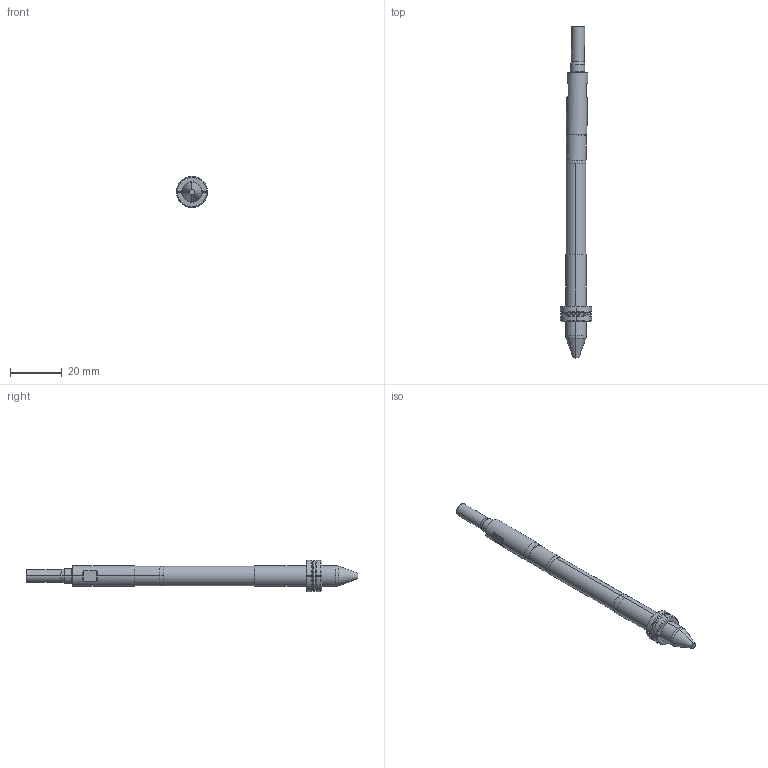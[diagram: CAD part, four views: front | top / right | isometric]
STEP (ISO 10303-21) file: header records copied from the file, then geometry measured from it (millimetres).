
FILE_DESCRIPTION (( 'STEP AP214' ), '1' );
FILE_NAME ('WP080030-INJ 1°.STEP', '2021-03-19T15:19:10', ( '' ), ( '' ), 'SwSTEP 2.0', 'SolidWorks 2019', '' );
FILE_SCHEMA (( 'AUTOMOTIVE_DESIGN' ));
Length unit declared in the file: millimetre
Products named in the file (6): Web-WP08-6; Web-WP08-2; WP080030-INJ 1°; Web-WP08-1; Web-WP08-F_WP08-F-OFF 1ø; Web-WP08-7
Assembly tree (5 placements, depth 2):
  WP080030-INJ 1°
    Web-WP08-1
    Web-WP08-F_WP08-F-OFF 1ø
    Web-WP08-2
    Web-WP08-6
    Web-WP08-7
Bounding box: 11.99 x 128.03 x 12 mm (x, y, z)
Volume: 5841 mm3; surface area: 4095.1 mm2
Topology: 6 solids, 6 shells, 121 faces, 280 edges, 174 vertices
Faces by surface type: cylinder 36, plane 29, cone 28, torus 28
Entity records: 3977 total; most frequent: CARTESIAN_POINT 767, DIRECTION 652, ORIENTED_EDGE 560, AXIS2_PLACEMENT_3D 283, EDGE_CURVE 280, VERTEX_POINT 174, CIRCLE 154, EDGE_LOOP 126
